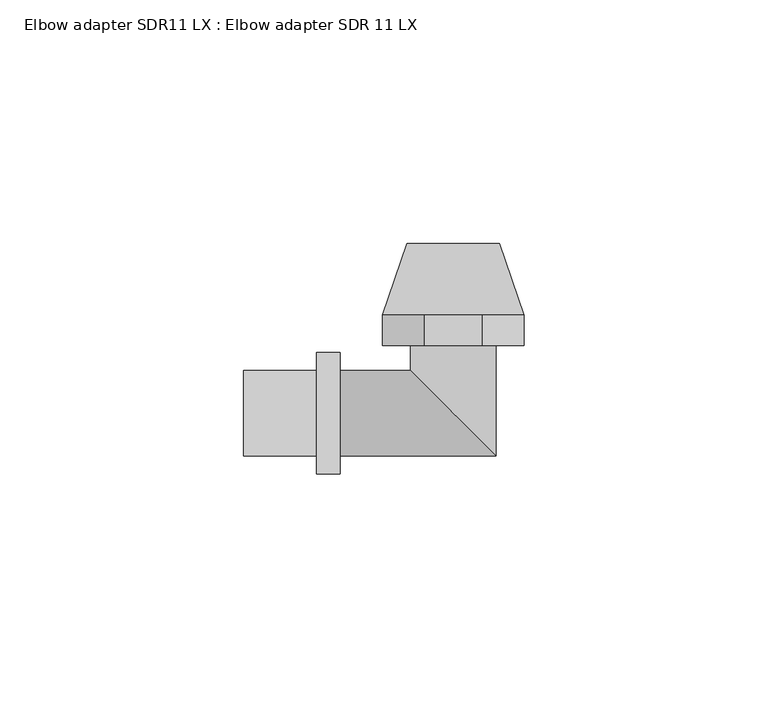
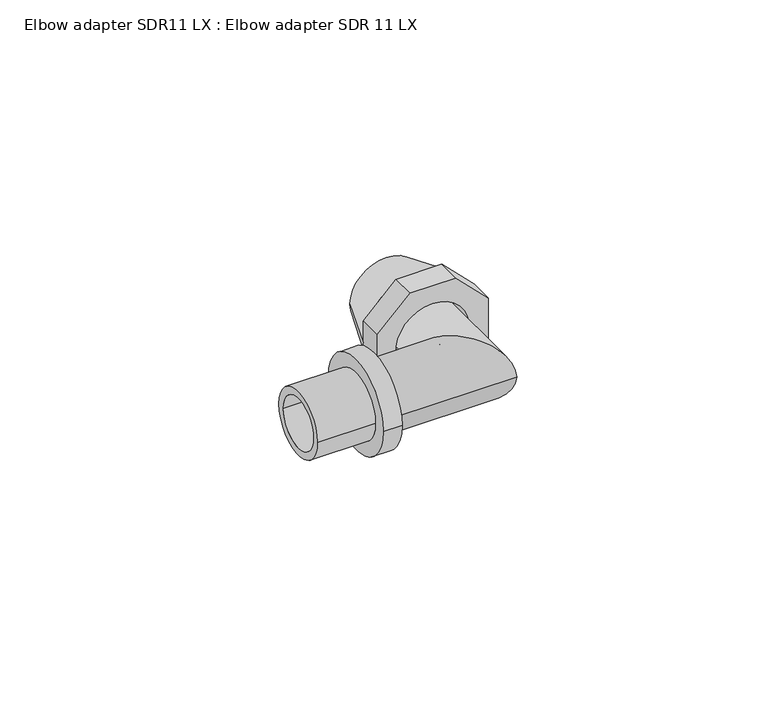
"""IFC4 building model written with IfcOpenShell, lengths in millimetres: pipe fitting geometry, Elbow adapter SDR11 LX : Elbow adapter SDR 11 LX."""

from ifc_helpers import new_model, si_unit, point, frame, origin, origin_2d, place, context, project, spatial, polyline, circle_curve, ellipse_curve, trimmed, segment, composite_curve, outline, extrude, source, transform, mapped, element, save
from ifc_brep_helpers import plane_surface, cylinder_surface, revolved_surface, advanced_brep


def elbow_adapter_sdr11_lx_elbow_adapter_sdr_11_lx_cc2d060e(model_context):
    return source(origin(), model_context, "Body", "SolidModel", [
        extrude(outline(polyline([(-6.0060967, -14.5), (-14.5, -6.0060967), (-14.5, 6.0060967), (-6.0060967, 14.5), (6.0060967, 14.5), (14.5, 6.0060967), (14.5, -6.0060967), (6.0060967, -14.5), (-6.0060967, -14.5)]), holes=[composite_curve([segment(trimmed(circle_curve(origin_2d(), 9.5), [point((-9.5, 0.0))], [point((9.5, 0.0))], True, "CARTESIAN"), True, "CONTINUOUS"), segment(trimmed(circle_curve(origin_2d(), 9.5), [point((9.5, 0.0))], [point((-9.5, 0.0))], True, "CARTESIAN"), True, "CONTINUOUS")], self_intersect=False)]), frame((0.0, 13.9, 0.0), z_axis=(0.0, 1.0, 0.0), x_axis=(0.0, 0.0, 1.0)), (0.0, 0.0, 1.0), 6.3),
        advanced_brep(
        [(14.5, 20.2, 0.0), (-14.5, 20.2, 0.0), (0.0, 20.2, -9.5), (0.0, 20.2, 9.5), (-9.5, 34.8, 0.0), (0.0, 34.8, -9.5), (9.5, 34.8, 0.0), (0.0, 34.8, 9.5)],
        [
            (0, 1, circle_curve(frame((0.0, 20.2, 0.0), z_axis=(0.0, -1.0, 0.0), x_axis=(-1.0, 0.0, 0.0)), 14.5)),
            (1, 0, circle_curve(frame((0.0, 20.2, 0.0), z_axis=(0.0, -1.0, 0.0), x_axis=(1.0, 0.0, 0.0)), 14.5)),
            (2, 3, circle_curve(frame((0.0, 20.2, 0.0), z_axis=(0.0, 1.0, 0.0), x_axis=(0.0, 0.0, 1.0)), 9.5)),
            (3, 2, circle_curve(frame((0.0, 20.2, 0.0), z_axis=(0.0, 1.0, 0.0), x_axis=(0.0, 0.0, 1.0)), 9.5)),
            (1, 4),
            (4, 5, circle_curve(frame((0.0, 34.8, 0.0), z_axis=(0.0, -1.0, 0.0), x_axis=(1.0, 0.0, 0.0)), 9.5)),
            (5, 6, circle_curve(frame((0.0, 34.8, 0.0), z_axis=(0.0, -1.0, 0.0), x_axis=(1.0, 0.0, 0.0)), 9.5)),
            (6, 0),
            (6, 7, circle_curve(frame((0.0, 34.8, 0.0), z_axis=(0.0, -1.0, 0.0), x_axis=(-1.0, 0.0, 0.0)), 9.5)),
            (7, 4, circle_curve(frame((0.0, 34.8, 0.0), z_axis=(0.0, -1.0, 0.0), x_axis=(-1.0, 0.0, 0.0)), 9.5)),
            (2, 5),
            (7, 3),
        ],
        [
            plane_surface(frame((0.0, 20.2, 0.0), z_axis=(0.0, -1.0, 0.0), x_axis=(0.0, 0.0, -1.0))),
            revolved_surface(polyline([(9.5, 34.8, 0.0), (14.5, 20.199999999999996, 0.0)]), (0.0, 62.54, 0.0), (0.0, -1.0, 0.0)),
            revolved_surface(polyline([(-9.5, 34.8, 0.0), (-14.5, 20.199999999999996, 0.0)]), (0.0, 62.54, 0.0), (0.0, -1.0, 0.0)),
            revolved_surface(polyline([(0.0, 34.8, 9.5), (0.0, 20.2, 9.5)]), (0.0, 13.9, 0.0), (0.0, 1.0, 0.0)),
        ],
        [
            (0, [[1, 2], [3, 4]]),
            (1, [[-2, 5, 6, 7, 8]]),
            (2, [[-1, -8, 9, 10, -5]]),
            (3, [[11, -6, -10, 12, -3]]),
            (3, [[-11, -4, -12, -9, -7]]),
        ],
    ),
        advanced_brep(
        [(-23.2, -8.8, 0.0), (-23.2, 8.8, 0.0), (-23.2, -6.8, 0.0), (-23.2, 6.8, 0.0), (8.8, -8.8, 0.0), (-8.8, 8.8, 0.0), (6.8, -6.8, 0.0), (-6.8, 6.8, 0.0), (8.8, 20.2, 0.0), (-8.8, 20.2, 0.0), (6.8, 20.2, 0.0), (-6.8, 20.2, 0.0)],
        [
            (0, 1, circle_curve(frame((-23.2, 0.0, 0.0), z_axis=(-1.0, 0.0, 0.0), x_axis=(0.0, 1.0, 0.0)), 8.8)),
            (1, 0, circle_curve(frame((-23.2, 0.0, 0.0), z_axis=(-1.0, 0.0, 0.0), x_axis=(0.0, 1.0, 0.0)), 8.8)),
            (2, 3, circle_curve(frame((-23.2, 0.0, 0.0), z_axis=(1.0, 0.0, 0.0), x_axis=(0.0, 1.0, 0.0)), 6.8)),
            (3, 2, circle_curve(frame((-23.2, 0.0, 0.0), z_axis=(1.0, 0.0, 0.0), x_axis=(0.0, 1.0, 0.0)), 6.8)),
            (0, 4),
            (4, 5, ellipse_curve(frame((0.0, 0.0, 0.0), z_axis=(-0.7071067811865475, -0.7071067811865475, 0.0), x_axis=(-0.7071067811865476, 0.7071067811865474, 0.0)), 12.4450793, 8.8)),
            (5, 1),
            (5, 4, ellipse_curve(frame((0.0, 0.0, 0.0), z_axis=(-0.7071067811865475, -0.7071067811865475, 0.0), x_axis=(-0.7071067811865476, 0.7071067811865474, 0.0)), 12.4450793, 8.8)),
            (2, 6),
            (6, 7, ellipse_curve(frame((0.0, 0.0, 0.0), z_axis=(0.7071067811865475, 0.7071067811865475, 0.0), x_axis=(0.7071067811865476, -0.7071067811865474, 0.0)), 9.6166522, 6.8)),
            (7, 3),
            (7, 6, ellipse_curve(frame((0.0, 0.0, 0.0), z_axis=(0.7071067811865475, 0.7071067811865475, 0.0), x_axis=(0.7071067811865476, -0.7071067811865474, 0.0)), 9.6166522, 6.8)),
            (8, 9, circle_curve(frame((0.0, 20.2, 0.0), z_axis=(0.0, 1.0, 0.0), x_axis=(-1.0, 0.0, 0.0)), 8.8)),
            (9, 8, circle_curve(frame((0.0, 20.2, 0.0), z_axis=(0.0, 1.0, 0.0), x_axis=(-1.0, 0.0, 0.0)), 8.8)),
            (10, 11, circle_curve(frame((0.0, 20.2, 0.0), z_axis=(0.0, -1.0, 0.0), x_axis=(-1.0, 0.0, 0.0)), 6.8)),
            (11, 10, circle_curve(frame((0.0, 20.2, 0.0), z_axis=(0.0, -1.0, 0.0), x_axis=(-1.0, 0.0, 0.0)), 6.8)),
            (4, 8),
            (9, 5),
            (6, 10),
            (11, 7),
        ],
        [
            plane_surface(frame((-23.2, 0.0, 0.0), z_axis=(-1.0, 0.0, 0.0), x_axis=(0.0, 0.0, 1.0))),
            cylinder_surface(frame((-23.2, 0.0, 0.0), z_axis=(-1.0, 0.0, 0.0), x_axis=(0.0, 1.0, 0.0)), 8.8),
            revolved_surface(polyline([(6.800000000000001, 6.8, 0.0), (-23.2, 6.8, 0.0)]), (-23.2, 0.0, 0.0), (1.0, 0.0, 0.0)),
            plane_surface(frame((0.0, 20.2, 0.0), z_axis=(0.0, 1.0, 0.0), x_axis=(0.0, 0.0, 1.0))),
            cylinder_surface(frame((0.0, 0.0, 0.0), z_axis=(0.0, -1.0, 0.0), x_axis=(-1.0, 0.0, 0.0)), 8.8),
            revolved_surface(polyline([(-6.8, 20.2, 0.0), (-6.8, -6.8, 0.0)]), (0.0, 0.0, 0.0), (0.0, 1.0, 0.0)),
        ],
        [
            (0, [[1, 2], [3, 4]]),
            (1, [[-1, 5, 6, 7]]),
            (1, [[-2, -7, 8, -5]]),
            (2, [[-3, 9, 10, 11]]),
            (2, [[-4, -11, 12, -9]]),
            (3, [[13, 14], [15, 16]]),
            (4, [[-6, 17, -14, 18]]),
            (4, [[-8, -18, -13, -17]]),
            (5, [[-10, 19, -16, 20]]),
            (5, [[-12, -20, -15, -19]]),
        ],
    ),
        advanced_brep(
        [(-23.2, 12.5, 0.0), (-23.2, -12.5, 0.0), (-28.0, -12.5, 0.0), (-28.0, 12.5, 0.0), (-28.0, 8.8, 0.0), (-28.0, -8.8, 0.0), (-43.0, -8.8, 0.0), (-43.0, 8.8, 0.0), (-43.0, 6.8, 0.0), (-43.0, -6.8, 0.0), (-23.2, -6.8, 0.0), (-23.2, 6.8, 0.0)],
        [
            (0, 1, circle_curve(frame((-23.2, 0.0, 0.0), z_axis=(-1.0, 0.0, 0.0), x_axis=(0.0, -1.0, 0.0)), 12.5)),
            (1, 2),
            (2, 3, circle_curve(frame((-28.0, 0.0, 0.0), z_axis=(1.0, 0.0, 0.0), x_axis=(0.0, -1.0, 0.0)), 12.5)),
            (3, 0),
            (4, 5, circle_curve(frame((-28.0, 0.0, 0.0), z_axis=(-1.0, 0.0, 0.0), x_axis=(0.0, -1.0, 0.0)), 8.8)),
            (5, 6),
            (6, 7, circle_curve(frame((-43.0, 0.0, 0.0), z_axis=(1.0, 0.0, 0.0), x_axis=(0.0, -1.0, 0.0)), 8.8)),
            (7, 4),
            (8, 9, circle_curve(frame((-43.0, 0.0, 0.0), z_axis=(-1.0, 0.0, 0.0), x_axis=(0.0, -1.0, 0.0)), 6.8)),
            (9, 10),
            (10, 11, circle_curve(frame((-23.2, 0.0, 0.0), z_axis=(1.0, 0.0, 0.0), x_axis=(0.0, -1.0, 0.0)), 6.8)),
            (11, 8),
            (0, 1, circle_curve(frame((-23.2, 0.0, 0.0), z_axis=(1.0, 0.0, 0.0), x_axis=(0.0, 1.0, 0.0)), 12.5)),
            (10, 11, circle_curve(frame((-23.2, 0.0, 0.0), z_axis=(-1.0, 0.0, 0.0), x_axis=(0.0, 1.0, 0.0)), 6.8)),
            (3, 2, circle_curve(frame((-28.0, 0.0, 0.0), z_axis=(1.0, 0.0, 0.0), x_axis=(0.0, 1.0, 0.0)), 12.5)),
            (4, 5, circle_curve(frame((-28.0, 0.0, 0.0), z_axis=(1.0, 0.0, 0.0), x_axis=(0.0, 1.0, 0.0)), 8.8)),
            (7, 6, circle_curve(frame((-43.0, 0.0, 0.0), z_axis=(1.0, 0.0, 0.0), x_axis=(0.0, 1.0, 0.0)), 8.8)),
            (8, 9, circle_curve(frame((-43.0, 0.0, 0.0), z_axis=(1.0, 0.0, 0.0), x_axis=(0.0, 1.0, 0.0)), 6.8)),
        ],
        [
            cylinder_surface(frame((0.0, 0.0, 0.0), z_axis=(1.0, 0.0, 0.0), x_axis=(0.0, -1.0, 0.0)), 12.5),
            cylinder_surface(frame((0.0, 0.0, 0.0), z_axis=(1.0, 0.0, 0.0), x_axis=(0.0, -1.0, 0.0)), 8.8),
            revolved_surface(polyline([(-23.2, -6.8, 0.0), (-43.0, -6.8, 0.0)]), (0.0, 0.0, 0.0), (1.0, 0.0, 0.0)),
            plane_surface(frame((-23.2, 0.0, 0.0), z_axis=(1.0, 0.0, 0.0), x_axis=(0.0, 1.0, 0.0))),
            cylinder_surface(frame((0.0, 0.0, 0.0), z_axis=(1.0, 0.0, 0.0), x_axis=(0.0, 1.0, 0.0)), 12.5),
            plane_surface(frame((-28.0, 0.0, 0.0), z_axis=(-1.0, 0.0, 0.0), x_axis=(0.0, 1.0, 0.0))),
            cylinder_surface(frame((0.0, 0.0, 0.0), z_axis=(1.0, 0.0, 0.0), x_axis=(0.0, 1.0, 0.0)), 8.8),
            plane_surface(frame((-43.0, 0.0, 0.0), z_axis=(-1.0, 0.0, 0.0), x_axis=(0.0, 1.0, 0.0))),
            revolved_surface(polyline([(-23.2, 6.8, 0.0), (-43.0, 6.8, 0.0)]), (0.0, 0.0, 0.0), (1.0, 0.0, 0.0)),
        ],
        [
            (0, [[1, 2, 3, 4]]),
            (1, [[5, 6, 7, 8]]),
            (2, [[9, 10, 11, 12]]),
            (3, [[13, -1], [14, -11]]),
            (4, [[-13, -4, 15, -2]]),
            (5, [[-15, -3], [16, -5]]),
            (6, [[-16, -8, 17, -6]]),
            (7, [[-17, -7], [18, -9]]),
            (8, [[-18, -12, -14, -10]]),
        ],
    ),
    ])


if __name__ == "__main__":
    model = new_model("IFC4")
    model_context = context("Model", 3, world=origin())
    ifc_project = project(units=[si_unit("LENGTHUNIT", "METRE", prefix="MILLI")], contexts=[model_context])
    site = spatial("IfcSite", under=ifc_project)
    building = spatial("IfcBuilding", under=site)
    placement = place(None, origin())
    elbow_adapter_sdr11_lx_elbow_adapter_sdr_11_lx_shape = elbow_adapter_sdr11_lx_elbow_adapter_sdr_11_lx_cc2d060e(model_context)
    element("IfcPipeFitting", 1, ObjectType="Elbow adapter SDR11 LX : Elbow adapter SDR 11 LX", at=placement, inside=building, context=model_context, shape_type="MappedRepresentation", body=[
        mapped(elbow_adapter_sdr11_lx_elbow_adapter_sdr_11_lx_shape, transform((0.0, 0.0, 0.0), x_axis=(1.0, 0.0, 0.0), y_axis=(0.0, 1.0, 0.0), z_axis=(0.0, 0.0, 1.0))),
    ])
    save(model, "model.ifc")
